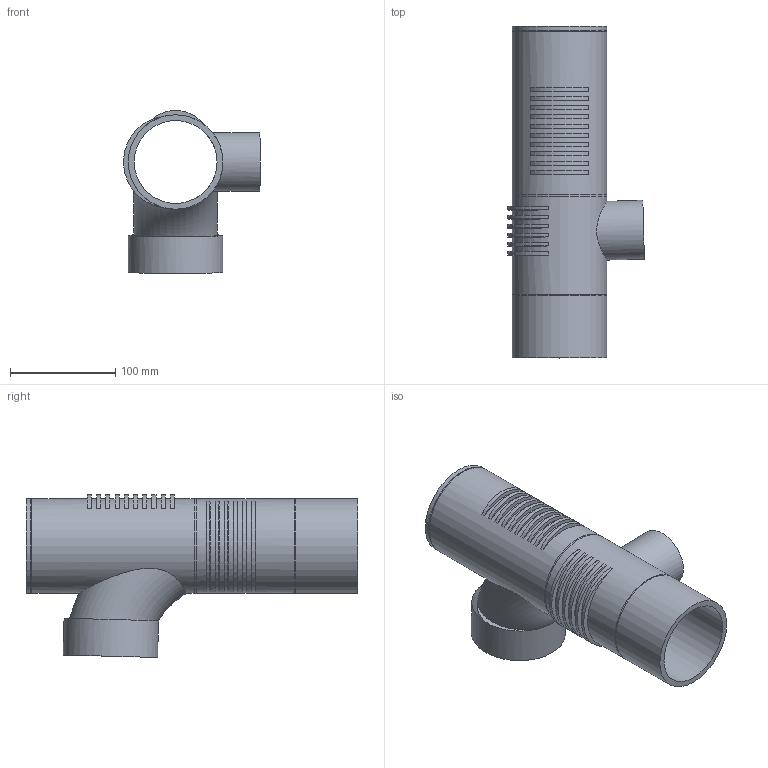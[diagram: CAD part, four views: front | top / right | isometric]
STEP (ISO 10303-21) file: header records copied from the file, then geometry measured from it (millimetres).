
FILE_DESCRIPTION(/* description */ (''),/* implementation_level */ '2;1');
FILE_NAME(/* name */ 'Z:\Geberit\Export\NewStep\308817.stp',/* time_stamp */ '2014-04-01T20:06:20+02:00',/* author */ ('ML'),/* organization */ (''),/* preprocessor_version */ 'ST-DEVELOPER v15.2',/* originating_system */ 'Autodesk Inventor 2014',/* authorisation */ '');
FILE_SCHEMA (('AUTOMOTIVE_DESIGN { 1 0 10303 214 3 1 1 }'));
Length unit declared in the file: millimetre
Products named in the file (5): 308058; 861737; 308089; 861736; 308817
Bounding box: 130.19 x 316 x 155.15 mm (x, y, z)
Volume: 567226.7 mm3; surface area: 222872.4 mm2
Topology: 2 solids, 2 shells, 72 faces, 161 edges, 110 vertices
Faces by surface type: plane 28, cylinder 26, cone 16, torus 2
Full cylindrical faces by diameter (mm): 49.6 x1, 56 x1, 79 x3, 90 x5
Entity records: 2725 total; most frequent: CARTESIAN_POINT 1071, DIRECTION 338, ORIENTED_EDGE 268, AXIS2_PLACEMENT_3D 153, EDGE_CURVE 134, EDGE_LOOP 116, VERTEX_POINT 102, CIRCLE 72
